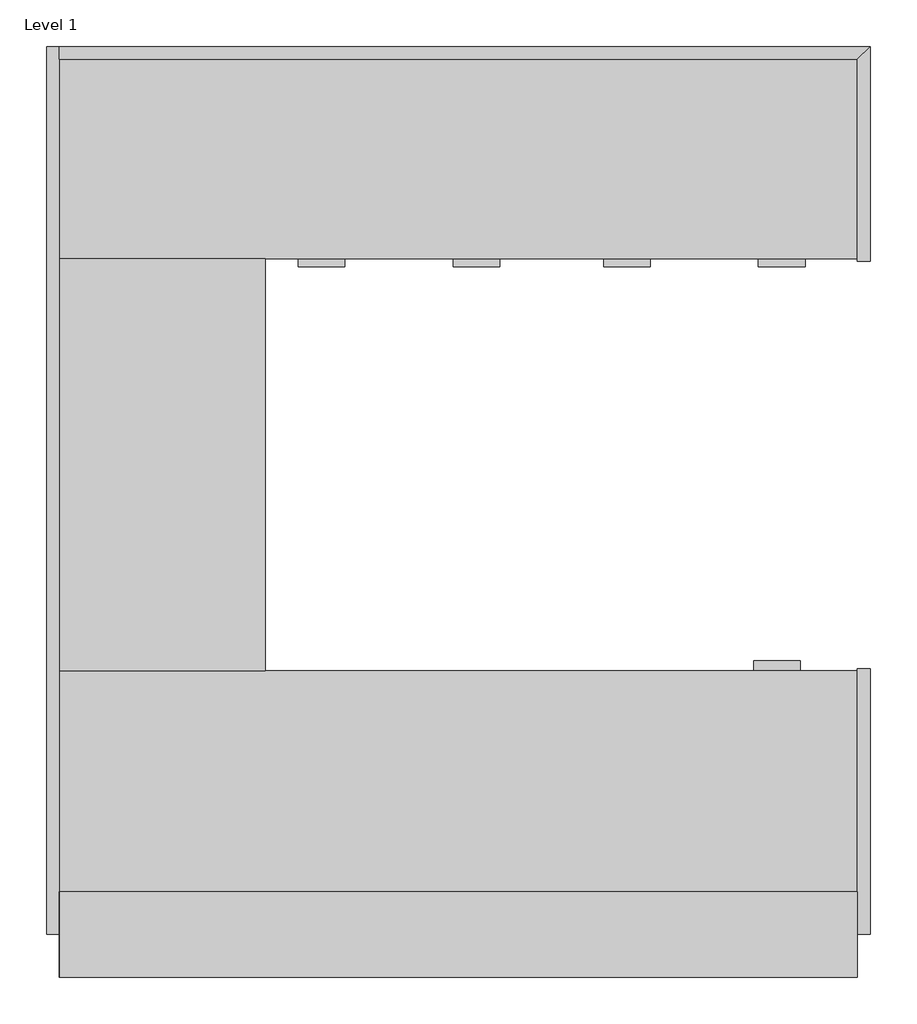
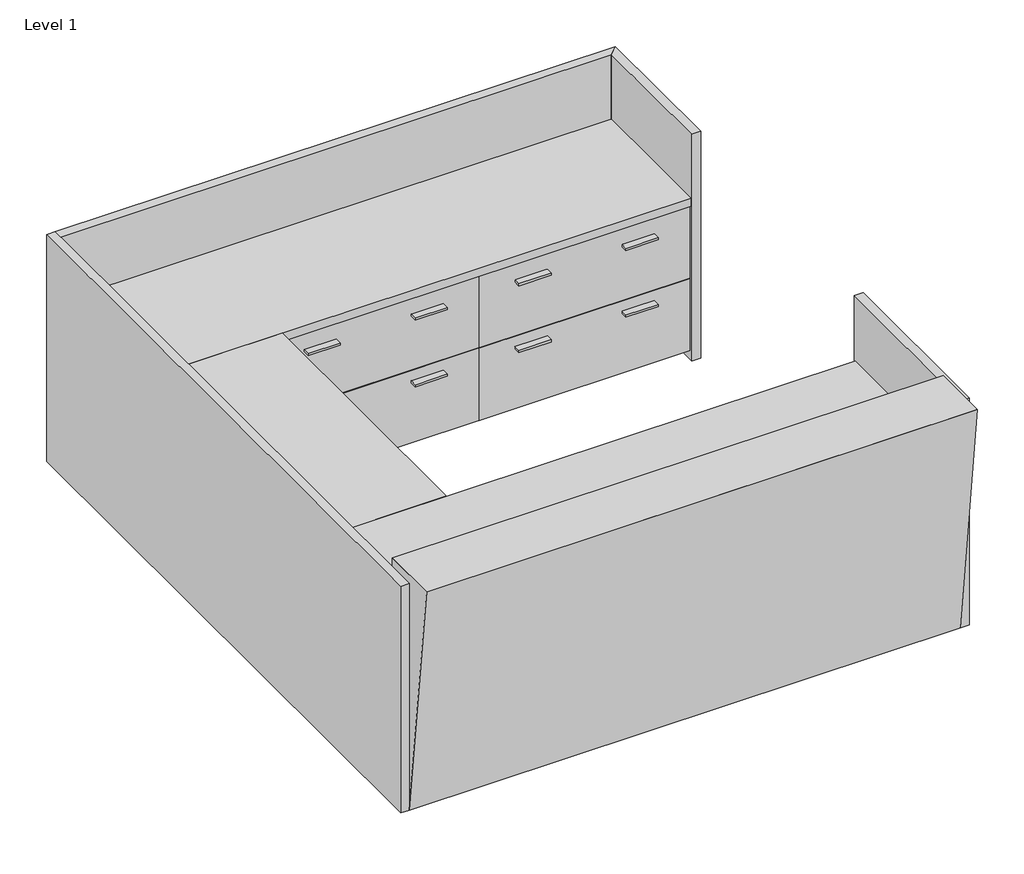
# One storey: 17 proxies.
"""IFC4 building model written with IfcOpenShell, lengths in millimetres."""

from ifc_helpers import new_model, si_unit, origin, place, context, project, spatial, transform, mapped, element, save
from components import generic_models_8a2f238f, generic_models_772d3905, generic_models_ff9fff1f, generic_models_fd82de5f, generic_models_0e09be4f, generic_models_44093d03, cantilever_bracket_10x18x_5_fb91e7c7

model = new_model("IFC4")

# Units and contexts
model_context = context("Model", 3, world=origin())
ifc_project = project(units=[si_unit("LENGTHUNIT", "METRE", prefix="MILLI")], contexts=[model_context])

# Site, building, storey
site = spatial("IfcSite", under=ifc_project)
building = spatial("IfcBuilding", under=site)
storey = spatial("IfcBuildingStorey", under=building, Name="Level 1", Elevation=0.0)

# Proxies
placement = place(None, origin())
generic_models_shape = generic_models_8a2f238f(model_context)
element("IfcBuildingElementProxy", 1, Name="SCHWINN 22334 PULL", ObjectType="SCHWINN 22334 PULL", at=placement, inside=storey, context=model_context, shape_type="MappedRepresentation", body=[
    mapped(generic_models_shape, transform((1341.834375, -622.3, 624.68125), x_axis=(0.0, -1.0, 0.0), y_axis=(0.0, 0.0, -1.0), z_axis=(1.0, 0.0, 0.0))),
])
element("IfcBuildingElementProxy", 2, Name="SCHWINN 22334 PULL", ObjectType="SCHWINN 22334 PULL", at=placement, inside=storey, context=model_context, shape_type="MappedRepresentation", body=[
    mapped(generic_models_shape, transform((1341.834375, -622.3, 322.2625), x_axis=(0.0, -1.0, 0.0), y_axis=(0.0, 0.0, -1.0), z_axis=(1.0, 0.0, 0.0))),
])
element("IfcBuildingElementProxy", 3, Name="SCHWINN 22334 PULL", ObjectType="SCHWINN 22334 PULL", at=placement, inside=storey, context=model_context, shape_type="MappedRepresentation", body=[
    mapped(generic_models_shape, transform((883.44375, -622.3, 624.68125), x_axis=(0.0, -1.0, 0.0), y_axis=(0.0, 0.0, -1.0), z_axis=(1.0, 0.0, 0.0))),
])
element("IfcBuildingElementProxy", 4, Name="SCHWINN 22334 PULL", ObjectType="SCHWINN 22334 PULL", at=placement, inside=storey, context=model_context, shape_type="MappedRepresentation", body=[
    mapped(generic_models_shape, transform((2245.51875, -622.3, 322.2625), x_axis=(0.0, -1.0, 0.0), y_axis=(0.0, 0.0, -1.0), z_axis=(1.0, 0.0, 0.0))),
])
element("IfcBuildingElementProxy", 5, Name="SCHWINN 22334 PULL", ObjectType="SCHWINN 22334 PULL", at=placement, inside=storey, context=model_context, shape_type="MappedRepresentation", body=[
    mapped(generic_models_shape, transform((1787.128125, -622.3, 322.2625), x_axis=(0.0, -1.0, 0.0), y_axis=(0.0, 0.0, -1.0), z_axis=(1.0, 0.0, 0.0))),
])
element("IfcBuildingElementProxy", 6, Name="SCHWINN 22334 PULL", ObjectType="SCHWINN 22334 PULL", at=placement, inside=storey, context=model_context, shape_type="MappedRepresentation", body=[
    mapped(generic_models_shape, transform((883.44375, -622.3, 322.2625), x_axis=(0.0, -1.0, 0.0), y_axis=(0.0, 0.0, -1.0), z_axis=(1.0, 0.0, 0.0))),
])
element("IfcBuildingElementProxy", 7, Name="SCHWINN 22334 PULL", ObjectType="SCHWINN 22334 PULL", at=placement, inside=storey, context=model_context, shape_type="MappedRepresentation", body=[
    mapped(generic_models_shape, transform((2245.51875, -622.3, 624.68125), x_axis=(0.0, -1.0, 0.0), y_axis=(0.0, 0.0, -1.0), z_axis=(1.0, 0.0, 0.0))),
])
element("IfcBuildingElementProxy", 8, Name="SCHWINN 22334 PULL", ObjectType="SCHWINN 22334 PULL", at=placement, inside=storey, context=model_context, shape_type="MappedRepresentation", body=[
    mapped(generic_models_shape, transform((1787.128125, -622.3, 624.68125), x_axis=(0.0, -1.0, 0.0), y_axis=(0.0, 0.0, -1.0), z_axis=(1.0, 0.0, 0.0))),
])
generic_models_2_shape = generic_models_772d3905(model_context)
element("IfcBuildingElementProxy", 9, Name="FOUNDATION^PEDESTAL_LEGAL BBF 26x29.75D-SOLID ASSEMBLY", ObjectType="FOUNDATION^PEDESTAL_LEGAL BBF 26x29.75D-SOLID ASSEMBLY", at=placement, inside=storey, context=model_context, shape_type="MappedRepresentation", body=[
    mapped(generic_models_2_shape, transform((2400.3, -2603.5, 38.1), x_axis=(-1.0, 0.0, 0.0), y_axis=(0.0, 0.0, 1.0), z_axis=(0.0, 1.0, 0.0))),
])
generic_models_3_shape = generic_models_ff9fff1f(model_context)
element("IfcBuildingElementProxy", 10, Name="FOUNDATION^ADMIN 2_CREDENZA-PARTS SOLID", ObjectType="FOUNDATION^ADMIN 2_CREDENZA-PARTS SOLID", at=placement, inside=storey, context=model_context, shape_type="MappedRepresentation", body=[
    mapped(generic_models_3_shape, transform((38.1, -38.1, 38.1), x_axis=(1.0, 0.0, 0.0), y_axis=(0.0, 0.0, 1.0), z_axis=(0.0, -1.0, 0.0))),
])
generic_models_4_shape = generic_models_fd82de5f(model_context)
element("IfcBuildingElementProxy", 11, Name="FOUNDATION^PEDESTAL_PLINTH-17.25x27.38", ObjectType="FOUNDATION^PEDESTAL_PLINTH-17.25x27.38", at=placement, inside=storey, context=model_context, shape_type="MappedRepresentation", body=[
    mapped(generic_models_4_shape, transform((1962.15, -2603.5, 0.0), x_axis=(1.0, 0.0, 0.0), y_axis=(0.0, 0.0, 1.0), z_axis=(0.0, -1.0, 0.0))),
])
generic_models_5_shape = generic_models_0e09be4f(model_context)
element("IfcBuildingElementProxy", 12, Name="FOUNDATION^ADMIN 2_U-SHAPE-PARTS SOLID", ObjectType="FOUNDATION^ADMIN 2_U-SHAPE-PARTS SOLID", at=placement, inside=storey, context=model_context, shape_type="MappedRepresentation", body=[
    mapped(generic_models_5_shape, transform((2400.3, -2628.9, 0.0), x_axis=(1.0, 0.0, 0.0), y_axis=(0.0, 0.0, 1.0), z_axis=(0.0, -1.0, 0.0))),
])
generic_models_6_shape = generic_models_44093d03(model_context)
element("IfcBuildingElementProxy", 13, Name="FOUNDATION^ADMIN 2_42x93 ANGLED FRONT TRANSACTION-PARTS SOLID", ObjectType="FOUNDATION^ADMIN 2_42x93 ANGLED FRONT TRANSACTION-PARTS SOLID", at=placement, inside=storey, context=model_context, shape_type="MappedRepresentation", body=[
    mapped(generic_models_6_shape, transform((2362.2, -2559.6400466, 709.6698721), x_axis=(1.0, 0.0, 0.0), y_axis=(0.0, 0.0, 1.0), z_axis=(0.0, -1.0, 0.0))),
])
cantilever_bracket_10x18x_5_shape = cantilever_bracket_10x18x_5_fb91e7c7(model_context)
element("IfcBuildingElementProxy", 14, Name="CANTILEVER BRACKET-10x18x.5", ObjectType="CANTILEVER BRACKET-10x18x.5", at=placement, inside=storey, context=model_context, shape_type="MappedRepresentation", body=[
    mapped(cantilever_bracket_10x18x_5_shape, transform((1152.525, -2603.5, 444.5), x_axis=(1.0, 0.0, 0.0), y_axis=(0.0, 0.0, 1.0), z_axis=(0.0, -1.0, 0.0))),
])
element("IfcBuildingElementProxy", 15, Name="CANTILEVER BRACKET-10x18x.5", ObjectType="CANTILEVER BRACKET-10x18x.5", at=placement, inside=storey, context=model_context, shape_type="MappedRepresentation", body=[
    mapped(cantilever_bracket_10x18x_5_shape, transform((152.4, -2603.5, 444.5), x_axis=(1.0, 0.0, 0.0), y_axis=(0.0, 0.0, 1.0), z_axis=(0.0, -1.0, 0.0))),
])
element("IfcBuildingElementProxy", 16, Name="CANTILEVER BRACKET-10x18x.5", ObjectType="CANTILEVER BRACKET-10x18x.5", at=placement, inside=storey, context=model_context, shape_type="MappedRepresentation", body=[
    mapped(cantilever_bracket_10x18x_5_shape, transform((38.1, -1720.85, 444.5), x_axis=(0.0, -1.0, 0.0), y_axis=(0.0, 0.0, 1.0), z_axis=(-1.0, 0.0, 0.0))),
])
element("IfcBuildingElementProxy", 17, Name="CANTILEVER BRACKET-10x18x.5", ObjectType="CANTILEVER BRACKET-10x18x.5", at=placement, inside=storey, context=model_context, shape_type="MappedRepresentation", body=[
    mapped(cantilever_bracket_10x18x_5_shape, transform((38.1, -704.85, 444.5), x_axis=(0.0, -1.0, 0.0), y_axis=(0.0, 0.0, 1.0), z_axis=(-1.0, 0.0, 0.0))),
])

save(model, "model.ifc")
